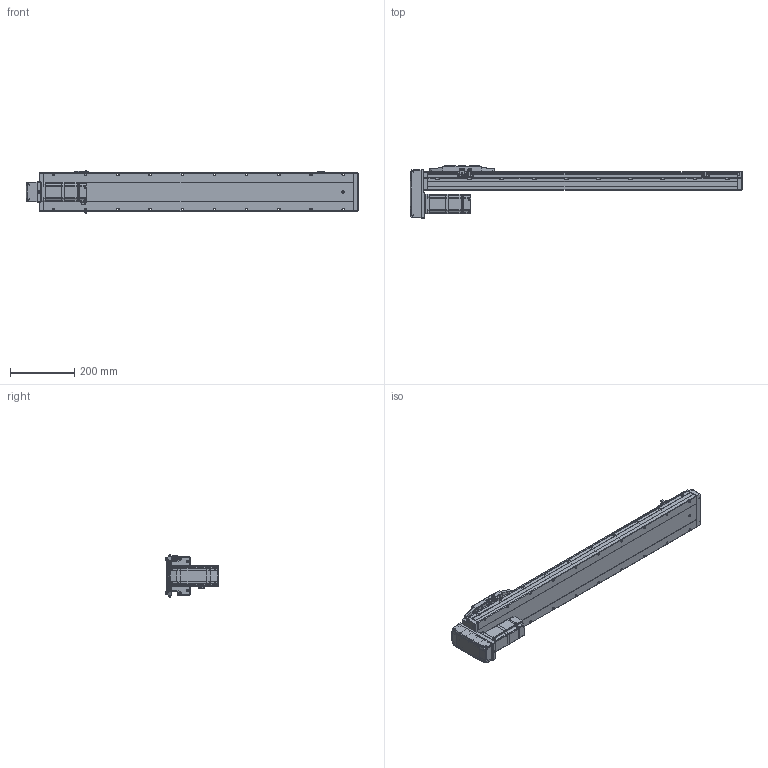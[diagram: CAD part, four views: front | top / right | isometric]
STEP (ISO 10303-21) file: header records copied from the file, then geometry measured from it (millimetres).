
FILE_DESCRIPTION (( 'STEP AP214' ), '1' );
FILE_NAME ('CTH12-L10-S750-BM-C40（简）.STEP', '2023-02-04T06:47:00', ( '' ), ( '' ), 'SwSTEP 2.0', 'SolidWorks 2018', '' );
FILE_SCHEMA (( 'AUTOMOTIVE_DESIGN' ));
Length unit declared in the file: millimetre
Products named in the file (25): hex nuts, style 1-grades ab gb_GB_FASTENER_NUT_SNAB1 M3-N; 嫖萇羲壽郪磁1; 嫖萇羲壽郪磁2; 内六角圆柱头螺钉M3-1; 蚐郲; 湮賑怢  裔赽-1(CTH12)賑怢; AC60_Valor predeterminado; CTH12-BM-02; CTH12_body_3; CTH400W垫板（3个厚）; CTH400W假蚾啣; CTH8耜蚾蟀諉啣ㄗ潠ㄘ; CTH12賑怢ㄗ潠ㄘ; BM-C40; CTH12-L10-S750-BM-C40（简）; CTH12覜茼え; 内六角圆柱头螺钉M5装饰螺钉; CTH12賑怢郪磁; CTH12-BL_body_4; CTH嫖萇羲壽假蚾啣; 内六角圆柱头螺钉M3-2; 内六角圆柱头螺钉M3; PM-Y45; CTH12; CTH12底座-L961简（750行程）
Assembly tree (45 placements, depth 4):
  CTH12-L10-S750-BM-C40（简）
    CTH12底座-L961简（750行程）
    蚐郲  x2
    CTH12_body_3
    CTH12-BL_body_4
    CTH12賑怢郪磁
      CTH12
        湮賑怢  裔赽-1(CTH12)賑怢
        CTH12賑怢ㄗ潠ㄘ
    CTH12覜茼え
    嫖萇羲壽郪磁1  x2
      CTH嫖萇羲壽假蚾啣
      PM-Y45
      内六角圆柱头螺钉M3-2
      内六角圆柱头螺钉M3-1
      hex nuts, style 1-grades ab gb_GB_FASTENER_NUT_SNAB1 M3-N
    嫖萇羲壽郪磁2
      CTH嫖萇羲壽假蚾啣
      PM-Y45
      内六角圆柱头螺钉M3-1  x2
      内六角圆柱头螺钉M3-2  x2
      hex nuts, style 1-grades ab gb_GB_FASTENER_NUT_SNAB1 M3-N  x2
    BM-C40
      CTH12-BM-02
      CTH8耜蚾蟀諉啣ㄗ潠ㄘ
    CTH400W垫板（3个厚）
    AC60_Valor predeterminado
    内六角圆柱头螺钉M3  x6
    内六角圆柱头螺钉M5装饰螺钉  x4
    CTH400W假蚾啣
Bounding box: 1031.5 x 162.5 x 131.52 mm (x, y, z)
Volume: 7014703.5 mm3; surface area: 667157.7 mm2
Topology: 47 solids, 48 shells, 2835 faces, 7185 edges, 4569 vertices
Faces by surface type: plane 1518, cylinder 838, cone 315, bspline 112, torus 52
Entity records: 78345 total; most frequent: CARTESIAN_POINT 18629, ORIENTED_EDGE 11550, DIRECTION 11476, EDGE_CURVE 5775, AXIS2_PLACEMENT_3D 3907, VERTEX_POINT 3673, VECTOR 3662, LINE 3662
